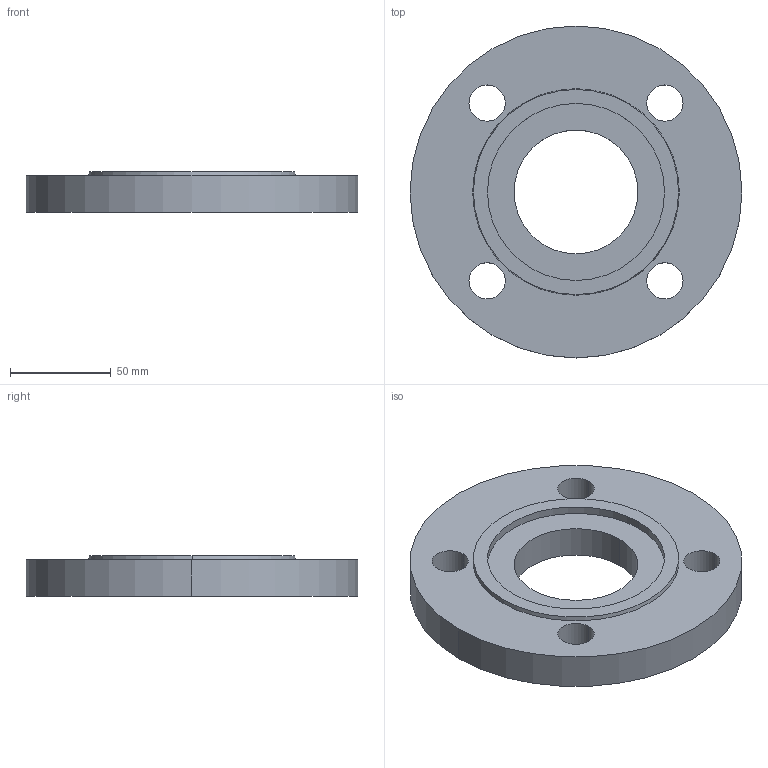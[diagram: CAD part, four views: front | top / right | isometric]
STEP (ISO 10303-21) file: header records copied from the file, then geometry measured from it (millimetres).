
FILE_DESCRIPTION (( 'STEP AP214' ), '1' );
FILE_NAME ('PN40 DN50 Type 01 - Type F Face.STEP', '2018-12-30T04:44:41', ( '' ), ( '' ), 'SwSTEP 2.0', 'SolidWorks 2019', '' );
FILE_SCHEMA (( 'AUTOMOTIVE_DESIGN' ));
Length unit declared in the file: millimetre
Products named in the file (1): PN40 DN50 Type 01 - Type F Face
Bounding box: 165 x 165 x 20 mm (x, y, z)
Volume: 311160.8 mm3; surface area: 52926.9 mm2
Topology: 1 solids, 1 shells, 20 faces, 48 edges, 32 vertices
Faces by surface type: cylinder 14, plane 4, cone 2
Entity records: 658 total; most frequent: DIRECTION 122, CARTESIAN_POINT 101, ORIENTED_EDGE 96, AXIS2_PLACEMENT_3D 53, EDGE_CURVE 48, CIRCLE 32, EDGE_LOOP 32, VERTEX_POINT 32
